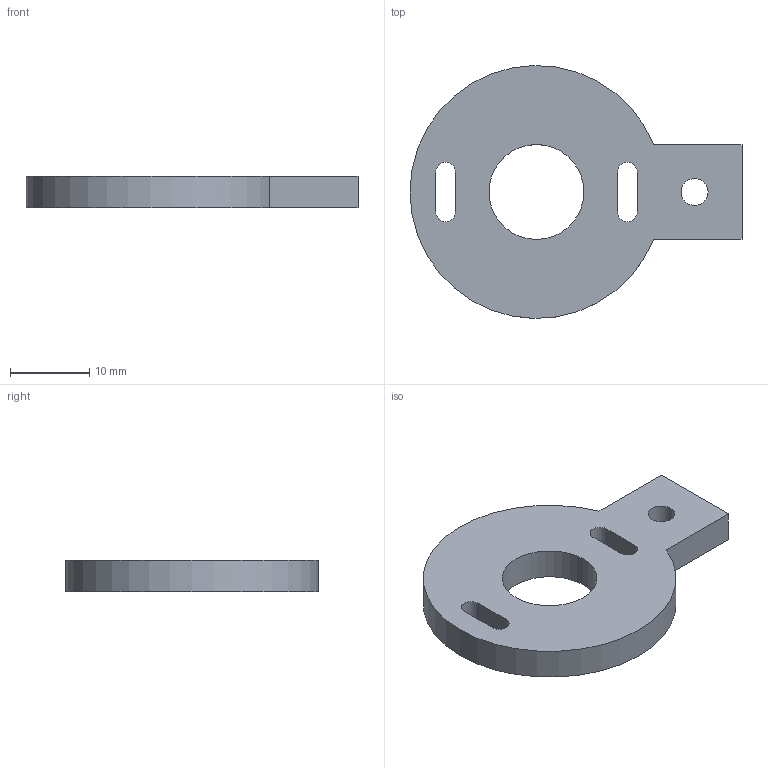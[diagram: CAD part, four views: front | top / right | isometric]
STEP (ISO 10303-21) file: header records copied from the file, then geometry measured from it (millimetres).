
FILE_DESCRIPTION(('Open CASCADE Model'),'2;1');
FILE_NAME('Open CASCADE Shape Model','2026-10-26T17:58:52',('Author'),( 'Open CASCADE'),'Open CASCADE STEP processor 7.9','Open CASCADE 7.9' ,'Unknown');
FILE_SCHEMA(('AUTOMOTIVE_DESIGN { 1 0 10303 214 1 1 1 1 }'));
Length unit declared in the file: millimetre
Products named in the file (1): Open CASCADE STEP translator 7.9 17
Bounding box: 42 x 31.99 x 4 mm (x, y, z)
Volume: 3087.4 mm3; surface area: 2370.3 mm2
Topology: 1 solids, 1 shells, 16 faces, 42 edges, 28 vertices
Faces by surface type: plane 9, cylinder 7
Full cylindrical faces by diameter (mm): 3.4 x1, 12 x1
Entity records: 1076 total; most frequent: CARTESIAN_POINT 239, DIRECTION 146, ORIENTED_EDGE 84, PCURVE 84, DEFINITIONAL_REPRESENTATION 84, LINE 78, VECTOR 78, EDGE_CURVE 42
